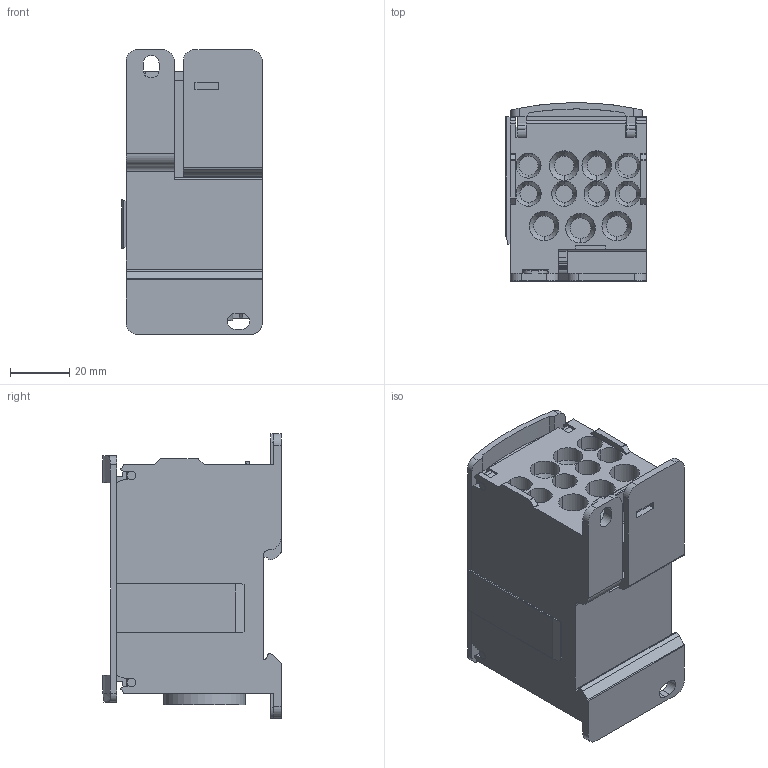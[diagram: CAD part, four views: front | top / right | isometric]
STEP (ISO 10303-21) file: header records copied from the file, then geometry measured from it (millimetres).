
FILE_DESCRIPTION(/* description */ ('Unknown'),/* implementation_level */ '2;1');
FILE_NAME(/* name */ '9D01_5_250_0111',/* time_stamp */ '2023-07-03T16:31:17+02:00',/* author */ ('Unknown'),/* organization */ ('Unknown'),/* preprocessor_version */ 'ST-DEVELOPER v18.102',/* originating_system */ 'Solid Edge',/* authorisation */ 'Unknown');
FILE_SCHEMA (('AUTOMOTIVE_DESIGN {1 0 10303 214 3 1 1}'));
Length unit declared in the file: millimetre
Products named in the file (1): 9D01_5_250_0111
Bounding box: 47.5 x 60.1 x 96 mm (x, y, z)
Volume: 171836.6 mm3; surface area: 37439.8 mm2
Topology: 1 solids, 8 shells, 449 faces, 1225 edges, 799 vertices
Faces by surface type: plane 246, cylinder 179, cone 24
Entity records: 14487 total; most frequent: CARTESIAN_POINT 2749, DIRECTION 2500, ORIENTED_EDGE 2450, EDGE_CURVE 1225, AXIS2_PLACEMENT_3D 847, LINE 806, VECTOR 806, VERTEX_POINT 799
